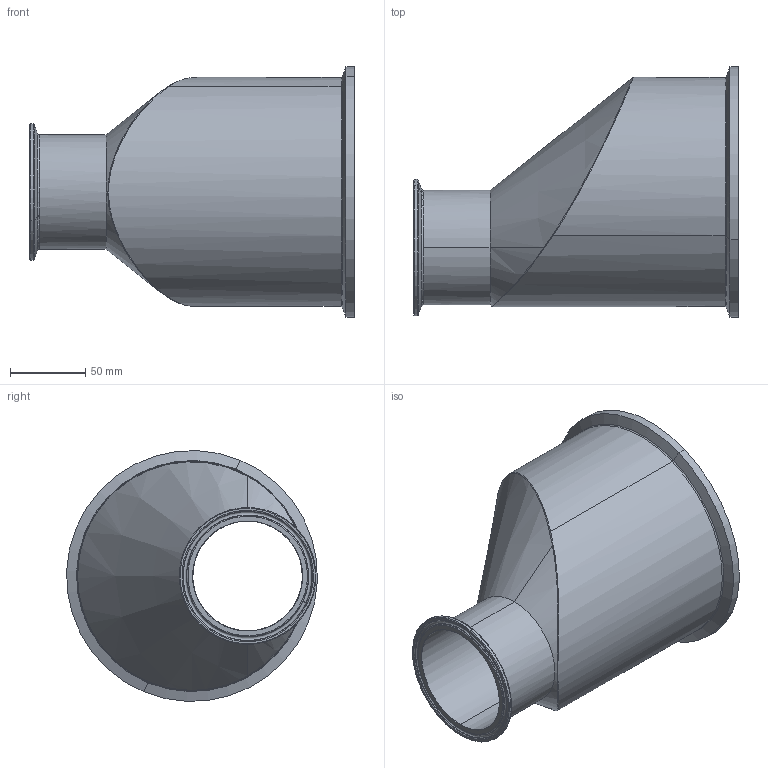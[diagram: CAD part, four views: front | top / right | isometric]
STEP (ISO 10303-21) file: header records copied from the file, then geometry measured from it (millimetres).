
FILE_DESCRIPTION (( 'STEP AP214' ), '1' );
FILE_NAME ('TEG32SCC6L6.0x3.0-...STEP', '2016-06-02T10:27:48', ( 'eran' ), ( '' ), 'SwSTEP 2.0', 'SolidWorks 2016', '' );
FILE_SCHEMA (( 'AUTOMOTIVE_DESIGN' ));
Length unit declared in the file: inch
Products named in the file (1): TEG32SCC6L6.0x3.0-..
Bounding box: 215.95 x 166.73 x 166.73 mm (x, y, z)
Volume: 862845 mm3; surface area: 171408.2 mm2
Topology: 1 solids, 1 shells, 70 faces, 155 edges, 87 vertices
Faces by surface type: cone 23, torus 22, cylinder 17, bspline 4, plane 4
Entity records: 4021 total; most frequent: CARTESIAN_POINT 1536, DIRECTION 353, ORIENTED_EDGE 306, AXIS2_PLACEMENT_3D 158, EDGE_CURVE 153, CIRCLE 91, VERTEX_POINT 87, EDGE_LOOP 74
